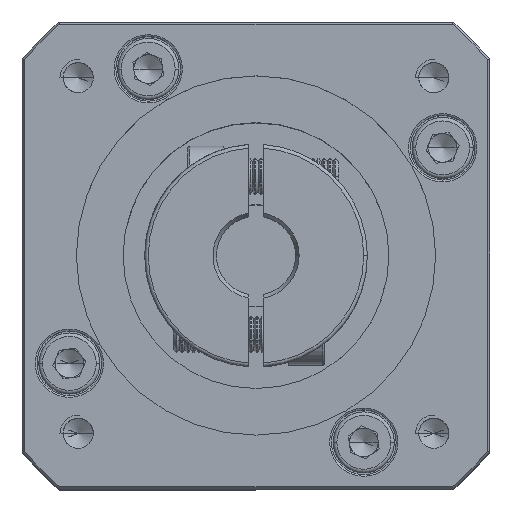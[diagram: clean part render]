
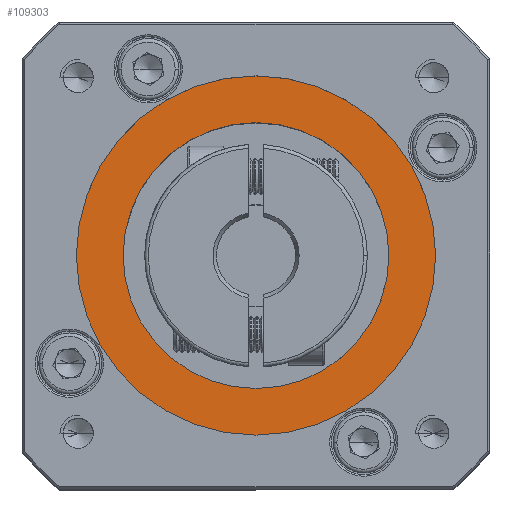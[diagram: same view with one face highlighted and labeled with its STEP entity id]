
A CAD part, top view. The second image highlights one B-rep face of the part: STEP entity #109303.
In plain terms, the highlighted planar face has unit normal (0, 0, 1).
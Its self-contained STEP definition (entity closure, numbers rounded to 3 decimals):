
#2693 = EDGE_CURVE ( 'NONE', #76412, #23670, #54084, .T. ) ;
#6029 = CARTESIAN_POINT ( 'NONE',  ( -70.559, 38.277, 30.705 ) ) ;
#6791 = AXIS2_PLACEMENT_3D ( 'NONE', #47694, #106716, #56216 ) ;
#6983 = CARTESIAN_POINT ( 'NONE',  ( -89.059, 38.277, 30.705 ) ) ;
#10320 = CARTESIAN_POINT ( 'NONE',  ( -52.059, 38.277, 30.705 ) ) ;
#10557 = EDGE_LOOP ( 'NONE', ( #40911, #53272 ) ) ;
#11193 = EDGE_CURVE ( 'NONE', #69859, #67149, #11801, .T. ) ;
#11801 = CIRCLE ( 'NONE', #76680, 18.5 ) ;
#14598 = DIRECTION ( 'NONE',  ( 1., 0., 0. ) ) ;
#18228 = CARTESIAN_POINT ( 'NONE',  ( -70.559, 38.277, 30.705 ) ) ;
#20093 = DIRECTION ( 'NONE',  ( 0., 0., -1. ) ) ;
#21799 = EDGE_LOOP ( 'NONE', ( #46257, #38069 ) ) ;
#23670 = VERTEX_POINT ( 'NONE', #32335 ) ;
#26692 = DIRECTION ( 'NONE',  ( 1., 0., 0. ) ) ;
#27123 = AXIS2_PLACEMENT_3D ( 'NONE', #86960, #36436, #95376 ) ;
#32335 = CARTESIAN_POINT ( 'NONE',  ( -95.559, 38.277, 30.705 ) ) ;
#36436 = DIRECTION ( 'NONE',  ( 0., 0., 1. ) ) ;
#38069 = ORIENTED_EDGE ( 'NONE', *, *, #106577, .T. ) ;
#40911 = ORIENTED_EDGE ( 'NONE', *, *, #2693, .T. ) ;
#46257 = ORIENTED_EDGE ( 'NONE', *, *, #11193, .T. ) ;
#47694 = CARTESIAN_POINT ( 'NONE',  ( -70.559, 38.277, 30.705 ) ) ;
#53272 = ORIENTED_EDGE ( 'NONE', *, *, #75595, .T. ) ;
#54084 = CIRCLE ( 'NONE', #85507, 25. ) ;
#56216 = DIRECTION ( 'NONE',  ( 1., 0., 0. ) ) ;
#59144 = CIRCLE ( 'NONE', #6791, 18.5 ) ;
#65165 = DIRECTION ( 'NONE',  ( 0., 0., 1. ) ) ;
#65731 = CARTESIAN_POINT ( 'NONE',  ( -45.559, 38.277, 30.705 ) ) ;
#67102 = FACE_BOUND ( 'NONE', #21799, .T. ) ;
#67149 = VERTEX_POINT ( 'NONE', #6983 ) ;
#69859 = VERTEX_POINT ( 'NONE', #10320 ) ;
#70638 = CARTESIAN_POINT ( 'NONE',  ( -70.559, 38.277, 30.705 ) ) ;
#75595 = EDGE_CURVE ( 'NONE', #23670, #76412, #85360, .T. ) ;
#76412 = VERTEX_POINT ( 'NONE', #65731 ) ;
#76680 = AXIS2_PLACEMENT_3D ( 'NONE', #70638, #20093, #79135 ) ;
#77300 = DIRECTION ( 'NONE',  ( 0., 0., 1. ) ) ;
#79135 = DIRECTION ( 'NONE',  ( 1., 0., 0. ) ) ;
#85360 = CIRCLE ( 'NONE', #27123, 25. ) ;
#85507 = AXIS2_PLACEMENT_3D ( 'NONE', #6029, #65165, #14598 ) ;
#86960 = CARTESIAN_POINT ( 'NONE',  ( -70.559, 38.277, 30.705 ) ) ;
#89485 = FACE_OUTER_BOUND ( 'NONE', #10557, .T. ) ;
#93758 = PLANE ( 'NONE',  #99177 ) ;
#95376 = DIRECTION ( 'NONE',  ( 1., 0., 0. ) ) ;
#99177 = AXIS2_PLACEMENT_3D ( 'NONE', #18228, #77300, #26692 ) ;
#106577 = EDGE_CURVE ( 'NONE', #67149, #69859, #59144, .T. ) ;
#106716 = DIRECTION ( 'NONE',  ( 0., 0., -1. ) ) ;
#109303 = ADVANCED_FACE ( 'NONE', ( #89485, #67102 ), #93758, .T. ) ;
